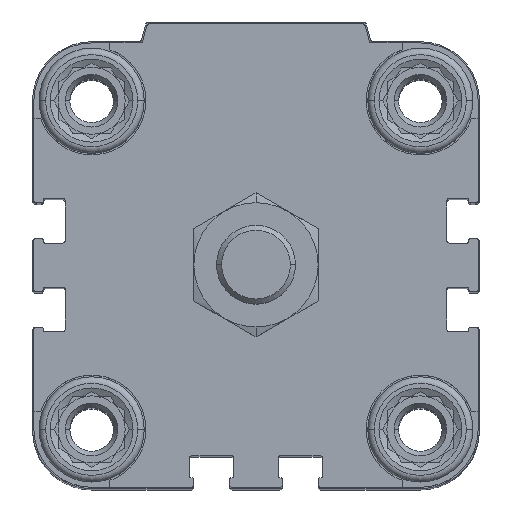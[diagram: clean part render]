
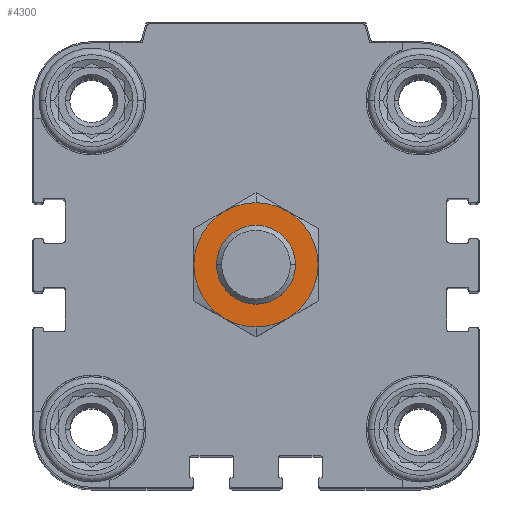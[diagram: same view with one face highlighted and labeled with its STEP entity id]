
A CAD part, top view. The second image highlights one B-rep face of the part: STEP entity #4300.
In plain terms, the highlighted planar face has unit normal (0, 0, 1).
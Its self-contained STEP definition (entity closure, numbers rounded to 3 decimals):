
#433 = FACE_BOUND ( 'NONE', #23754, .T. ) ;
#1158 = ORIENTED_EDGE ( 'NONE', *, *, #12515, .T. ) ;
#2009 = ORIENTED_EDGE ( 'NONE', *, *, #16875, .T. ) ;
#2591 = AXIS2_PLACEMENT_3D ( 'NONE', #4019, #17012, #5746 ) ;
#2725 = VERTEX_POINT ( 'NONE', #16018 ) ;
#4019 = CARTESIAN_POINT ( 'NONE',  ( 0., 0., 18.5 ) ) ;
#4300 = ADVANCED_FACE ( 'NONE', ( #21028, #433 ), #22985, .F. ) ;
#5746 = DIRECTION ( 'NONE',  ( 0., -1., 0. ) ) ;
#6197 = CARTESIAN_POINT ( 'NONE',  ( 0., 0., 18.5 ) ) ;
#6357 = AXIS2_PLACEMENT_3D ( 'NONE', #9099, #14722, #18994 ) ;
#6502 = ORIENTED_EDGE ( 'NONE', *, *, #16323, .F. ) ;
#7013 = DIRECTION ( 'NONE',  ( 0., 0., -1. ) ) ;
#7385 = CARTESIAN_POINT ( 'NONE',  ( 0., 0., 18.5 ) ) ;
#7921 = DIRECTION ( 'NONE',  ( 0., -1., 0. ) ) ;
#8351 = VERTEX_POINT ( 'NONE', #21218 ) ;
#9099 = CARTESIAN_POINT ( 'NONE',  ( 0., 0., 18.5 ) ) ;
#9134 = CARTESIAN_POINT ( 'NONE',  ( 0., 0., 18.5 ) ) ;
#11440 = EDGE_LOOP ( 'NONE', ( #6502, #19915 ) ) ;
#11693 = CARTESIAN_POINT ( 'NONE',  ( 0., 6., 18.5 ) ) ;
#12375 = VERTEX_POINT ( 'NONE', #23912 ) ;
#12515 = EDGE_CURVE ( 'NONE', #22315, #8351, #21613, .T. ) ;
#12792 = CIRCLE ( 'NONE', #18262, 9.45 ) ;
#12816 = CIRCLE ( 'NONE', #17889, 9.45 ) ;
#13678 = DIRECTION ( 'NONE',  ( 0., 0., -1. ) ) ;
#14331 = CIRCLE ( 'NONE', #2591, 6. ) ;
#14722 = DIRECTION ( 'NONE',  ( 0., 0., -1. ) ) ;
#16018 = CARTESIAN_POINT ( 'NONE',  ( 0., -9.45, 18.5 ) ) ;
#16108 = DIRECTION ( 'NONE',  ( 0., 0., -1. ) ) ;
#16201 = DIRECTION ( 'NONE',  ( 0., -1., 0. ) ) ;
#16323 = EDGE_CURVE ( 'NONE', #2725, #12375, #12816, .T. ) ;
#16875 = EDGE_CURVE ( 'NONE', #8351, #22315, #14331, .T. ) ;
#16973 = AXIS2_PLACEMENT_3D ( 'NONE', #6197, #13678, #7921 ) ;
#17012 = DIRECTION ( 'NONE',  ( 0., 0., -1. ) ) ;
#17889 = AXIS2_PLACEMENT_3D ( 'NONE', #7385, #7013, #16201 ) ;
#18262 = AXIS2_PLACEMENT_3D ( 'NONE', #9134, #16108, #23575 ) ;
#18664 = EDGE_CURVE ( 'NONE', #12375, #2725, #12792, .T. ) ;
#18994 = DIRECTION ( 'NONE',  ( 0., -1., 0. ) ) ;
#19915 = ORIENTED_EDGE ( 'NONE', *, *, #18664, .F. ) ;
#21028 = FACE_OUTER_BOUND ( 'NONE', #11440, .T. ) ;
#21218 = CARTESIAN_POINT ( 'NONE',  ( 0., -6., 18.5 ) ) ;
#21613 = CIRCLE ( 'NONE', #6357, 6. ) ;
#22315 = VERTEX_POINT ( 'NONE', #11693 ) ;
#22985 = PLANE ( 'NONE',  #16973 ) ;
#23575 = DIRECTION ( 'NONE',  ( 0., -1., 0. ) ) ;
#23754 = EDGE_LOOP ( 'NONE', ( #1158, #2009 ) ) ;
#23912 = CARTESIAN_POINT ( 'NONE',  ( 0., 9.45, 18.5 ) ) ;
